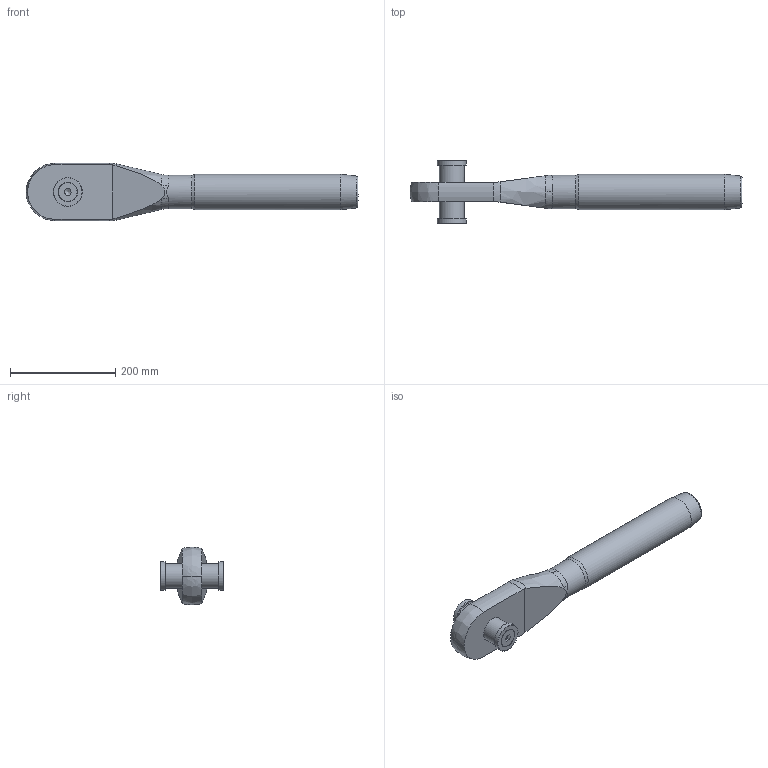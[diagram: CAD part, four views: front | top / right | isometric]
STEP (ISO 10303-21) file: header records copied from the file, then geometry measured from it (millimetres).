
FILE_DESCRIPTION(/* description */ (''),/* implementation_level */ '2;1');
FILE_NAME(/* name */ 'MCC 34_42CrMo4',/* time_stamp */ '2023-05-23T15:41:06+02:00',/* author */ (''),/* organization */ (''),/* preprocessor_version */ 'ST-DEVELOPER v16.5',/* originating_system */ 'Rhino 7.22',/* authorisation */ '');
FILE_SCHEMA (('CONFIG_CONTROL_DESIGN'));
Length unit declared in the file: millimetre
Products named in the file (1): Document
Bounding box: 631 x 119.48 x 109.99 mm (x, y, z)
Volume: 2400330 mm3; surface area: 192614.3 mm2
Topology: 6 solids, 6 shells, 74 faces, 203 edges, 135 vertices
Faces by surface type: bspline 31, plane 27, cylinder 16
Full cylindrical faces by diameter (mm): 17.294 x2, 20 x2, 21 x2, 35.4 x2, 47 x1, 49 x1, 55 x2, 63.5 x1, 66.8 x1
Entity records: 3250 total; most frequent: CARTESIAN_POINT 1995, ORIENTED_EDGE 386, EDGE_CURVE 193, VERTEX_POINT 135, EDGE_LOOP 84, ADVANCED_FACE 74, FACE_OUTER_BOUND 74, B_SPLINE_CURVE_WITH_KNOTS 64
